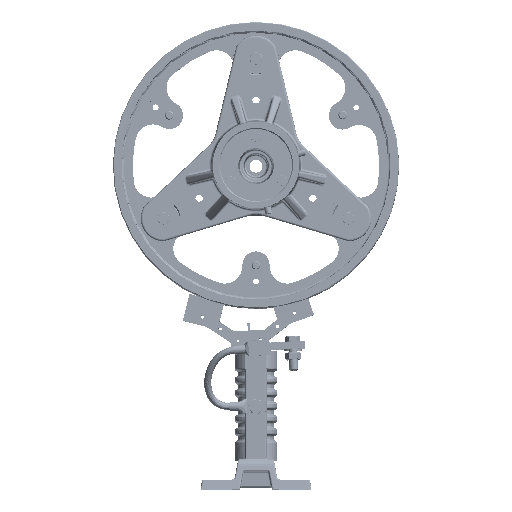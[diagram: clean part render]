
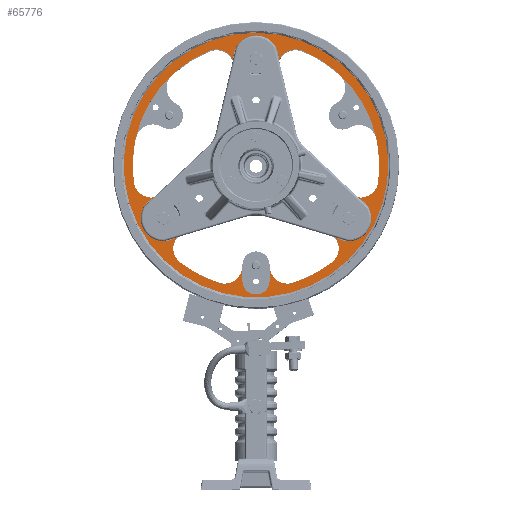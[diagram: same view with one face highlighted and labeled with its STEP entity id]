
A CAD part, top view. The second image highlights one B-rep face of the part: STEP entity #65776.
In plain terms, the highlighted planar face has unit normal (0, 0, 1).
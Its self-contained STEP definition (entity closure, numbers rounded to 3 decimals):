
#3348=PLANE('',#72325);
#7651=LINE('',#116006,#11091);
#7659=LINE('',#116022,#11099);
#11091=VECTOR('',#87954,21.216);
#11099=VECTOR('',#87966,21.216);
#13300=FACE_BOUND('',#22807,.T.);
#17177=FACE_OUTER_BOUND('',#22806,.T.);
#22806=EDGE_LOOP('',(#54776));
#22807=EDGE_LOOP('',(#54777,#54778,#54779,#54780,#54781,#54782,#54783,#54784,
#54785,#54786,#54787,#54788,#54789,#54790,#54791,#54792,#54793,#54794));
#26261=CIRCLE('',#72245,185.);
#26309=CIRCLE('',#72319,25.);
#26310=CIRCLE('',#72322,19.);
#26311=CIRCLE('',#72324,25.);
#26312=CIRCLE('',#72326,31.75);
#26313=CIRCLE('',#72327,25.);
#26314=CIRCLE('',#72328,172.5);
#26315=CIRCLE('',#72329,172.5);
#26316=CIRCLE('',#72330,25.);
#26317=CIRCLE('',#72331,31.75);
#26318=CIRCLE('',#72332,25.);
#26319=CIRCLE('',#72333,172.5);
#26320=CIRCLE('',#72334,25.);
#26321=CIRCLE('',#72335,31.75);
#26322=CIRCLE('',#72336,25.);
#26323=CIRCLE('',#72337,172.5);
#26324=CIRCLE('',#72338,25.);
#31523=VERTEX_POINT('',#115873);
#31565=VERTEX_POINT('',#116003);
#31566=VERTEX_POINT('',#116005);
#31571=VERTEX_POINT('',#116019);
#31572=VERTEX_POINT('',#116021);
#31587=VERTEX_POINT('',#116057);
#31588=VERTEX_POINT('',#116064);
#31589=VERTEX_POINT('',#116068);
#31590=VERTEX_POINT('',#116069);
#31591=VERTEX_POINT('',#116071);
#31592=VERTEX_POINT('',#116074);
#31593=VERTEX_POINT('',#116076);
#31594=VERTEX_POINT('',#116078);
#31595=VERTEX_POINT('',#116080);
#31596=VERTEX_POINT('',#116082);
#31597=VERTEX_POINT('',#116084);
#31598=VERTEX_POINT('',#116086);
#31599=VERTEX_POINT('',#116088);
#31600=VERTEX_POINT('',#116090);
#39428=EDGE_CURVE('',#31523,#31523,#26261,.T.);
#39474=EDGE_CURVE('',#31565,#31566,#7651,.T.);
#39482=EDGE_CURVE('',#31571,#31572,#7659,.T.);
#39500=EDGE_CURVE('',#31566,#31587,#26309,.T.);
#39502=EDGE_CURVE('',#31572,#31565,#26310,.T.);
#39504=EDGE_CURVE('',#31571,#31588,#26311,.F.);
#39505=EDGE_CURVE('',#31589,#31590,#26312,.T.);
#39506=EDGE_CURVE('',#31591,#31589,#26313,.T.);
#39507=EDGE_CURVE('',#31591,#31587,#26314,.T.);
#39508=EDGE_CURVE('',#31588,#31592,#26315,.T.);
#39509=EDGE_CURVE('',#31593,#31592,#26316,.T.);
#39510=EDGE_CURVE('',#31594,#31593,#26317,.T.);
#39511=EDGE_CURVE('',#31595,#31594,#26318,.T.);
#39512=EDGE_CURVE('',#31595,#31596,#26319,.T.);
#39513=EDGE_CURVE('',#31597,#31596,#26320,.T.);
#39514=EDGE_CURVE('',#31598,#31597,#26321,.T.);
#39515=EDGE_CURVE('',#31599,#31598,#26322,.T.);
#39516=EDGE_CURVE('',#31599,#31600,#26323,.T.);
#39517=EDGE_CURVE('',#31590,#31600,#26324,.T.);
#54776=ORIENTED_EDGE('',*,*,#39428,.F.);
#54777=ORIENTED_EDGE('',*,*,#39505,.F.);
#54778=ORIENTED_EDGE('',*,*,#39506,.F.);
#54779=ORIENTED_EDGE('',*,*,#39507,.T.);
#54780=ORIENTED_EDGE('',*,*,#39500,.F.);
#54781=ORIENTED_EDGE('',*,*,#39474,.F.);
#54782=ORIENTED_EDGE('',*,*,#39502,.F.);
#54783=ORIENTED_EDGE('',*,*,#39482,.F.);
#54784=ORIENTED_EDGE('',*,*,#39504,.T.);
#54785=ORIENTED_EDGE('',*,*,#39508,.T.);
#54786=ORIENTED_EDGE('',*,*,#39509,.F.);
#54787=ORIENTED_EDGE('',*,*,#39510,.F.);
#54788=ORIENTED_EDGE('',*,*,#39511,.F.);
#54789=ORIENTED_EDGE('',*,*,#39512,.T.);
#54790=ORIENTED_EDGE('',*,*,#39513,.F.);
#54791=ORIENTED_EDGE('',*,*,#39514,.F.);
#54792=ORIENTED_EDGE('',*,*,#39515,.F.);
#54793=ORIENTED_EDGE('',*,*,#39516,.T.);
#54794=ORIENTED_EDGE('',*,*,#39517,.F.);
#65776=ADVANCED_FACE('',(#17177,#13300),#3348,.F.);
#72245=AXIS2_PLACEMENT_3D('',#115874,#87836,#87837);
#72319=AXIS2_PLACEMENT_3D('',#116058,#88006,#88007);
#72322=AXIS2_PLACEMENT_3D('',#116062,#88013,#88014);
#72324=AXIS2_PLACEMENT_3D('',#116066,#88018,#88019);
#72325=AXIS2_PLACEMENT_3D('',#116067,#88020,#88021);
#72326=AXIS2_PLACEMENT_3D('',#116070,#88022,#88023);
#72327=AXIS2_PLACEMENT_3D('',#116072,#88024,#88025);
#72328=AXIS2_PLACEMENT_3D('',#116073,#88026,#88027);
#72329=AXIS2_PLACEMENT_3D('',#116075,#88028,#88029);
#72330=AXIS2_PLACEMENT_3D('',#116077,#88030,#88031);
#72331=AXIS2_PLACEMENT_3D('',#116079,#88032,#88033);
#72332=AXIS2_PLACEMENT_3D('',#116081,#88034,#88035);
#72333=AXIS2_PLACEMENT_3D('',#116083,#88036,#88037);
#72334=AXIS2_PLACEMENT_3D('',#116085,#88038,#88039);
#72335=AXIS2_PLACEMENT_3D('',#116087,#88040,#88041);
#72336=AXIS2_PLACEMENT_3D('',#116089,#88042,#88043);
#72337=AXIS2_PLACEMENT_3D('',#116091,#88044,#88045);
#72338=AXIS2_PLACEMENT_3D('',#116092,#88046,#88047);
#87836=DIRECTION('center_axis',(0.,0.,
-1.));
#87837=DIRECTION('ref_axis',(0.,-1.,0.));
#87954=DIRECTION('',(0.,1.,0.));
#87966=DIRECTION('',(0.,-1.,0.));
#88006=DIRECTION('center_axis',(0.,0.,
1.));
#88007=DIRECTION('ref_axis',(1.,0.,0.));
#88013=DIRECTION('center_axis',(0.,0.,
1.));
#88014=DIRECTION('ref_axis',(1.,0.,0.));
#88018=DIRECTION('center_axis',(0.,0.,
1.));
#88019=DIRECTION('ref_axis',(-1.,0.,0.));
#88020=DIRECTION('center_axis',(0.,0.,
-1.));
#88021=DIRECTION('ref_axis',(0.,-1.,0.));
#88022=DIRECTION('center_axis',(0.,0.,
1.));
#88023=DIRECTION('ref_axis',(-0.866,0.5,0.));
#88024=DIRECTION('center_axis',(0.,0.,
1.));
#88025=DIRECTION('ref_axis',(0.999,-0.042,0.));
#88026=DIRECTION('center_axis',(0.,0.,
-1.));
#88027=DIRECTION('ref_axis',(0.,-1.,0.));
#88028=DIRECTION('center_axis',(0.,0.,
-1.));
#88029=DIRECTION('ref_axis',(0.,-1.,0.));
#88030=DIRECTION('center_axis',(0.,0.,
1.));
#88031=DIRECTION('ref_axis',(-0.999,-0.042,0.));
#88032=DIRECTION('center_axis',(0.,0.,
1.));
#88033=DIRECTION('ref_axis',(0.866,0.5,0.));
#88034=DIRECTION('center_axis',(0.,0.,
1.));
#88035=DIRECTION('ref_axis',(-0.536,-0.844,0.));
#88036=DIRECTION('center_axis',(0.,0.,
-1.));
#88037=DIRECTION('ref_axis',(0.,-1.,0.));
#88038=DIRECTION('center_axis',(0.,0.,
1.));
#88039=DIRECTION('ref_axis',(0.463,0.886,0.));
#88040=DIRECTION('center_axis',(0.,0.,
1.));
#88041=DIRECTION('ref_axis',(0.,-1.,0.));
#88042=DIRECTION('center_axis',(0.,0.,
1.));
#88043=DIRECTION('ref_axis',(-0.463,0.886,0.));
#88044=DIRECTION('center_axis',(0.,0.,
-1.));
#88045=DIRECTION('ref_axis',(0.,-1.,0.));
#88046=DIRECTION('center_axis',(0.,0.,
1.));
#88047=DIRECTION('ref_axis',(0.536,-0.844,0.));
#115873=CARTESIAN_POINT('',(0.,613.5,731.321));
#115874=CARTESIAN_POINT('Origin',(0.,428.5,731.321));
#116003=CARTESIAN_POINT('',(19.,266.5,731.321));
#116005=CARTESIAN_POINT('',(19.,287.716,731.321));
#116006=CARTESIAN_POINT('',(19.,358.65,731.321));
#116019=CARTESIAN_POINT('',(-19.,287.716,731.321));
#116021=CARTESIAN_POINT('',(-19.,266.5,731.321));
#116022=CARTESIAN_POINT('',(-19.,347.5,731.321));
#116057=CARTESIAN_POINT('',(51.458,263.854,731.321));
#116058=CARTESIAN_POINT('Origin',(44.,287.716,731.321));
#116062=CARTESIAN_POINT('Origin',(0.,266.5,731.321));
#116064=CARTESIAN_POINT('',(-51.458,263.854,731.321));
#116066=CARTESIAN_POINT('Origin',(-44.,287.716,731.321));
#116067=CARTESIAN_POINT('Origin',(0.,428.5,731.321));
#116068=CARTESIAN_POINT('',(107.701,330.562,731.321));
#116069=CARTESIAN_POINT('',(138.667,384.198,731.321));
#116070=CARTESIAN_POINT('Origin',(129.254,353.875,731.321));
#116071=CARTESIAN_POINT('',(106.107,292.494,731.321));
#116072=CARTESIAN_POINT('Origin',(90.729,312.205,731.321));
#116073=CARTESIAN_POINT('Origin',(0.,428.5,731.321));
#116074=CARTESIAN_POINT('',(-106.107,292.494,731.321));
#116075=CARTESIAN_POINT('Origin',(0.,428.5,731.321));
#116076=CARTESIAN_POINT('',(-107.701,330.562,731.321));
#116077=CARTESIAN_POINT('Origin',(-90.729,312.205,731.321));
#116078=CARTESIAN_POINT('',(-138.667,384.198,731.321));
#116079=CARTESIAN_POINT('Origin',(-129.254,353.875,731.321));
#116080=CARTESIAN_POINT('',(-170.838,404.612,731.321));
#116081=CARTESIAN_POINT('Origin',(-146.079,408.074,731.321));
#116082=CARTESIAN_POINT('',(-64.731,588.394,731.321));
#116083=CARTESIAN_POINT('Origin',(0.,428.5,731.321));
#116084=CARTESIAN_POINT('',(-30.967,570.74,731.321));
#116085=CARTESIAN_POINT('Origin',(-55.35,565.221,731.321));
#116086=CARTESIAN_POINT('',(30.967,570.74,731.321));
#116087=CARTESIAN_POINT('Origin',(0.,577.75,731.321));
#116088=CARTESIAN_POINT('',(64.731,588.394,731.321));
#116089=CARTESIAN_POINT('Origin',(55.35,565.221,731.321));
#116090=CARTESIAN_POINT('',(170.838,404.612,731.321));
#116091=CARTESIAN_POINT('Origin',(0.,428.5,731.321));
#116092=CARTESIAN_POINT('Origin',(146.079,408.074,731.321));
